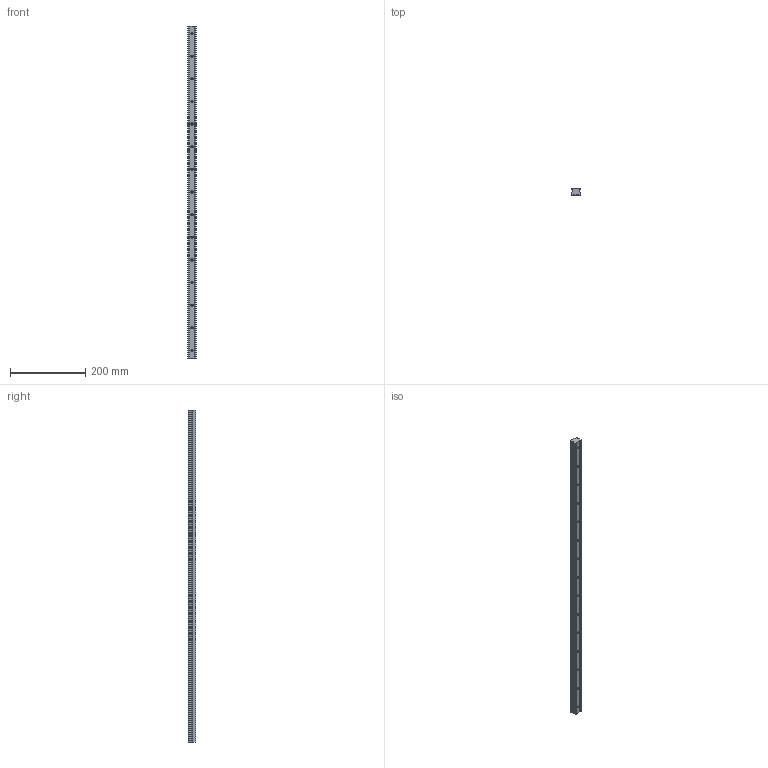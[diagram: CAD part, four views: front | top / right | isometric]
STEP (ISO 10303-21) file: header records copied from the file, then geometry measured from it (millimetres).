
FILE_DESCRIPTION (( 'STEP AP203' ), '1' );
FILE_NAME ('L1016.BRF25-0880.step', '2019-06-13T08:36:16', ( '' ), ( '' ), 'SwSTEP 2.0', 'SolidWorks 2017', '' );
FILE_SCHEMA (( 'CONFIG_CONTROL_DESIGN' ));
Length unit declared in the file: millimetre
Products named in the file (1): L1016.BRF25-0880
Bounding box: 23 x 19.2 x 880 mm (x, y, z)
Volume: 335892.2 mm3; surface area: 81591.7 mm2
Topology: 1 solids, 1 shells, 131 faces, 312 edges, 183 vertices
Faces by surface type: cylinder 64, plane 37, cone 30
Entity records: 3661 total; most frequent: DIRECTION 674, CARTESIAN_POINT 597, ORIENTED_EDGE 564, EDGE_CURVE 282, AXIS2_PLACEMENT_3D 260, VERTEX_POINT 183, EDGE_LOOP 161, LINE 154
